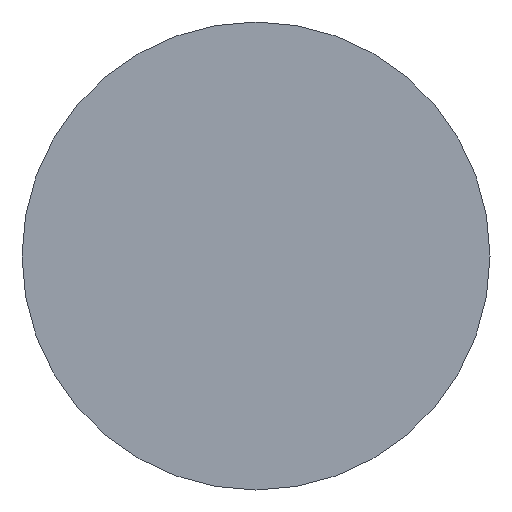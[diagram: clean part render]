
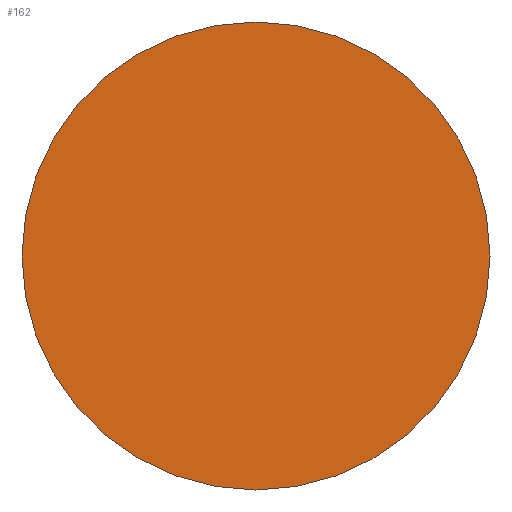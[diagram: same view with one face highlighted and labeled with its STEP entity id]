
A CAD part, left-side view. The second image highlights one B-rep face of the part: STEP entity #162.
In plain terms, the highlighted planar face has unit normal (-1, 0, 0).
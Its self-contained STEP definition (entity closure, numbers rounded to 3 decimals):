
#1 = ORIENTED_EDGE ( 'NONE', *, *, #108, .T. ) ;
#95 = VERTEX_POINT ( 'NONE', #238 ) ;
#108 = EDGE_CURVE ( 'NONE', #160, #95, #271, .T. ) ;
#149 = EDGE_LOOP ( 'NONE', ( #1, #150 ) ) ;
#150 = ORIENTED_EDGE ( 'NONE', *, *, #167, .T. ) ;
#160 = VERTEX_POINT ( 'NONE', #270 ) ;
#162 = ADVANCED_FACE ( 'NONE', ( #276 ), #277, .F. ) ;
#167 = EDGE_CURVE ( 'NONE', #95, #160, #296, .T. ) ;
#238 = CARTESIAN_POINT ( 'NONE',  ( 0., 0., -30. ) ) ;
#270 = CARTESIAN_POINT ( 'NONE',  ( 0., 0., 30. ) ) ;
#271 = CIRCLE ( 'NONE', #272, 30. ) ;
#272 = AXIS2_PLACEMENT_3D ( 'NONE', #273, #274, #275 ) ;
#273 = CARTESIAN_POINT ( 'NONE',  ( 0., 0., 0. ) ) ;
#274 = DIRECTION ( 'NONE',  ( -1., 0., 0. ) ) ;
#275 = DIRECTION ( 'NONE',  ( 0., 0., 1. ) ) ;
#276 = FACE_OUTER_BOUND ( 'NONE', #149, .T. ) ;
#277 = PLANE ( 'NONE',  #278 ) ;
#278 = AXIS2_PLACEMENT_3D ( 'NONE', #279, #280, #281 ) ;
#279 = CARTESIAN_POINT ( 'NONE',  ( 0., 30., 0. ) ) ;
#280 = DIRECTION ( 'NONE',  ( 1., 0., 0. ) ) ;
#281 = DIRECTION ( 'NONE',  ( 0., 0., -1. ) ) ;
#296 = CIRCLE ( 'NONE', #297, 30. ) ;
#297 = AXIS2_PLACEMENT_3D ( 'NONE', #298, #299, #300 ) ;
#298 = CARTESIAN_POINT ( 'NONE',  ( 0., 0., 0. ) ) ;
#299 = DIRECTION ( 'NONE',  ( -1., 0., 0. ) ) ;
#300 = DIRECTION ( 'NONE',  ( 0., 0., 1. ) ) ;
